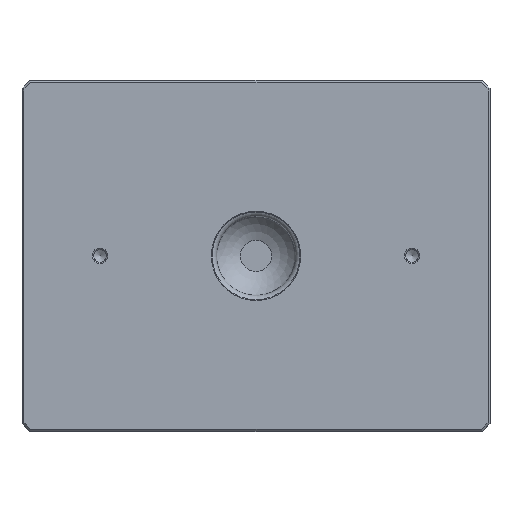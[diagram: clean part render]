
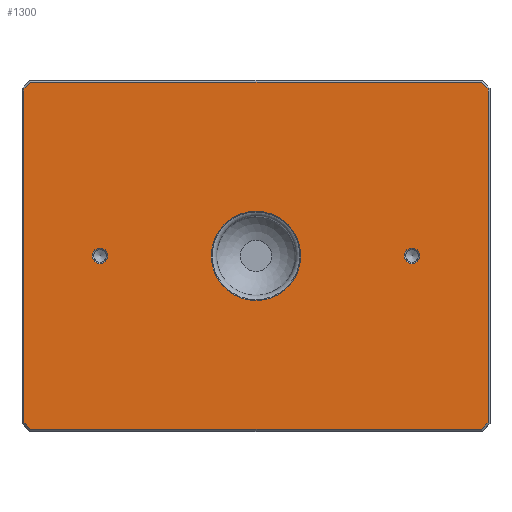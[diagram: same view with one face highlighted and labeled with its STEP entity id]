
A CAD part, top view. The second image highlights one B-rep face of the part: STEP entity #1300.
In plain terms, the highlighted planar face has unit normal (0, 0, 1).
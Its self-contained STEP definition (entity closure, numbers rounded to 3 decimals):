
#68=FACE_BOUND('',#258,.T.);
#69=FACE_BOUND('',#259,.T.);
#70=FACE_BOUND('',#260,.T.);
#91=CIRCLE('',#1413,11.45);
#94=CIRCLE('',#1417,2.);
#95=CIRCLE('',#1418,2.);
#165=FACE_OUTER_BOUND('',#257,.T.);
#257=EDGE_LOOP('',(#890,#891,#892,#893,#894,#895,#896,#897));
#258=EDGE_LOOP('',(#898));
#259=EDGE_LOOP('',(#899));
#260=EDGE_LOOP('',(#900));
#382=LINE('',#2043,#484);
#383=LINE('',#2045,#485);
#384=LINE('',#2047,#486);
#385=LINE('',#2049,#487);
#386=LINE('',#2051,#488);
#387=LINE('',#2053,#489);
#388=LINE('',#2055,#490);
#389=LINE('',#2056,#491);
#484=VECTOR('',#1628,10.);
#485=VECTOR('',#1629,10.);
#486=VECTOR('',#1630,10.);
#487=VECTOR('',#1631,10.);
#488=VECTOR('',#1632,10.);
#489=VECTOR('',#1633,10.);
#490=VECTOR('',#1634,10.);
#491=VECTOR('',#1635,10.);
#578=VERTEX_POINT('',#2033);
#581=VERTEX_POINT('',#2041);
#582=VERTEX_POINT('',#2042);
#583=VERTEX_POINT('',#2044);
#584=VERTEX_POINT('',#2046);
#585=VERTEX_POINT('',#2048);
#586=VERTEX_POINT('',#2050);
#587=VERTEX_POINT('',#2052);
#588=VERTEX_POINT('',#2054);
#589=VERTEX_POINT('',#2057);
#590=VERTEX_POINT('',#2059);
#695=EDGE_CURVE('',#578,#578,#91,.T.);
#699=EDGE_CURVE('',#581,#582,#382,.T.);
#700=EDGE_CURVE('',#583,#581,#383,.T.);
#701=EDGE_CURVE('',#584,#583,#384,.T.);
#702=EDGE_CURVE('',#585,#584,#385,.T.);
#703=EDGE_CURVE('',#586,#585,#386,.T.);
#704=EDGE_CURVE('',#587,#586,#387,.T.);
#705=EDGE_CURVE('',#588,#587,#388,.T.);
#706=EDGE_CURVE('',#582,#588,#389,.T.);
#707=EDGE_CURVE('',#589,#589,#94,.T.);
#708=EDGE_CURVE('',#590,#590,#95,.T.);
#890=ORIENTED_EDGE('',*,*,#699,.F.);
#891=ORIENTED_EDGE('',*,*,#700,.F.);
#892=ORIENTED_EDGE('',*,*,#701,.F.);
#893=ORIENTED_EDGE('',*,*,#702,.F.);
#894=ORIENTED_EDGE('',*,*,#703,.F.);
#895=ORIENTED_EDGE('',*,*,#704,.F.);
#896=ORIENTED_EDGE('',*,*,#705,.F.);
#897=ORIENTED_EDGE('',*,*,#706,.F.);
#898=ORIENTED_EDGE('',*,*,#707,.T.);
#899=ORIENTED_EDGE('',*,*,#708,.T.);
#900=ORIENTED_EDGE('',*,*,#695,.F.);
#1171=PLANE('',#1416);
#1300=ADVANCED_FACE('',(#165,#68,#69,#70),#1171,.T.);
#1413=AXIS2_PLACEMENT_3D('',#2034,#1619,#1620);
#1416=AXIS2_PLACEMENT_3D('',#2040,#1626,#1627);
#1417=AXIS2_PLACEMENT_3D('',#2058,#1636,#1637);
#1418=AXIS2_PLACEMENT_3D('',#2060,#1638,#1639);
#1619=DIRECTION('center_axis',(0.,0.,1.));
#1620=DIRECTION('ref_axis',(0.,-1.,0.));
#1626=DIRECTION('center_axis',(0.,0.,1.));
#1627=DIRECTION('ref_axis',(1.,0.,0.));
#1628=DIRECTION('',(-1.,0.,0.));
#1629=DIRECTION('',(-0.707,-0.707,0.));
#1630=DIRECTION('',(0.,-1.,0.));
#1631=DIRECTION('',(0.707,-0.707,0.));
#1632=DIRECTION('',(1.,0.,0.));
#1633=DIRECTION('',(0.707,0.707,0.));
#1634=DIRECTION('',(0.,1.,0.));
#1635=DIRECTION('',(-0.707,0.707,0.));
#1636=DIRECTION('center_axis',(0.,0.,-1.));
#1637=DIRECTION('ref_axis',(1.,0.,0.));
#1638=DIRECTION('center_axis',(0.,0.,-1.));
#1639=DIRECTION('ref_axis',(1.,0.,0.));
#2033=CARTESIAN_POINT('',(0.,11.45,33.));
#2034=CARTESIAN_POINT('Origin',(0.,0.,33.));
#2040=CARTESIAN_POINT('Origin',(0.,0.,
33.));
#2041=CARTESIAN_POINT('',(57.793,-44.5,33.));
#2042=CARTESIAN_POINT('',(-57.793,-44.5,33.));
#2043=CARTESIAN_POINT('',(30.,-44.5,33.));
#2044=CARTESIAN_POINT('',(59.5,-42.793,33.));
#2045=CARTESIAN_POINT('',(54.896,-47.396,33.));
#2046=CARTESIAN_POINT('',(59.5,42.793,33.));
#2047=CARTESIAN_POINT('',(59.5,22.5,33.));
#2048=CARTESIAN_POINT('',(57.793,44.5,33.));
#2049=CARTESIAN_POINT('',(54.896,47.396,33.));
#2050=CARTESIAN_POINT('',(-57.793,44.5,33.));
#2051=CARTESIAN_POINT('',(-30.,44.5,33.));
#2052=CARTESIAN_POINT('',(-59.5,42.793,33.));
#2053=CARTESIAN_POINT('',(-54.896,47.396,33.));
#2054=CARTESIAN_POINT('',(-59.5,-42.793,33.));
#2055=CARTESIAN_POINT('',(-59.5,-22.5,33.));
#2056=CARTESIAN_POINT('',(-54.896,-47.396,33.));
#2057=CARTESIAN_POINT('',(38.,0.,33.));
#2058=CARTESIAN_POINT('Origin',(40.,0.,33.));
#2059=CARTESIAN_POINT('',(-42.,0.,33.));
#2060=CARTESIAN_POINT('Origin',(-40.,0.,33.));
